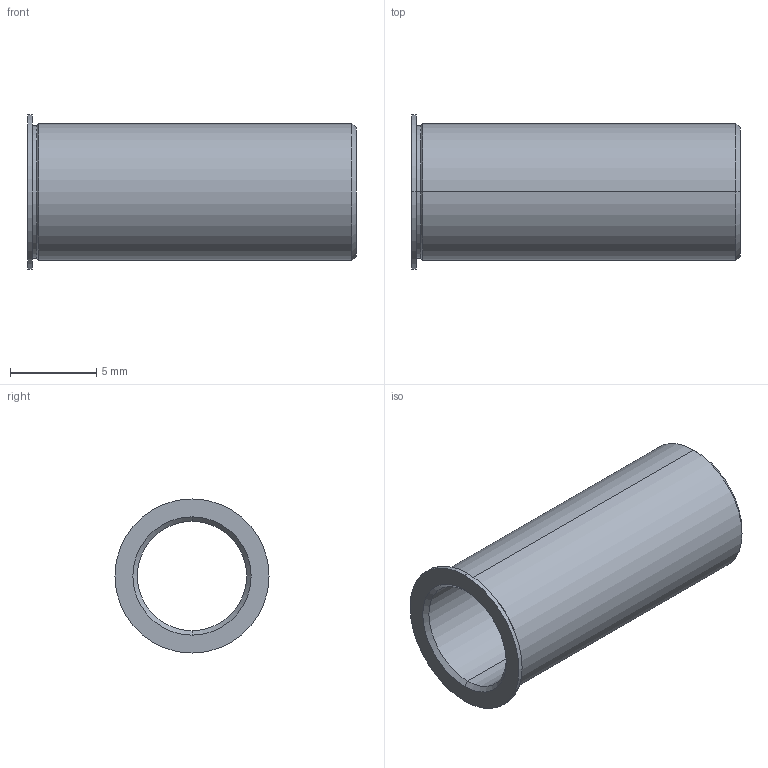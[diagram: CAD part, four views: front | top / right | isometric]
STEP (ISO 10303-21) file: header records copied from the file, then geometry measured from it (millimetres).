
FILE_DESCRIPTION (( 'STEP AP214' ), '1' );
FILE_NAME ('TB250-80-750.STEP', '2013-02-13T15:15:15', ( 'workpc' ), ( 'Microsoft' ), 'SwSTEP 2.0', 'SolidWorks 2013', '' );
FILE_SCHEMA (( 'AUTOMOTIVE_DESIGN' ));
Length unit declared in the file: inch
Products named in the file (1): TB250-80-750
Bounding box: 19.05 x 8.94 x 8.94 mm (x, y, z)
Volume: 339.6 mm3; surface area: 912.7 mm2
Topology: 1 solids, 1 shells, 19 faces, 38 edges, 22 vertices
Faces by surface type: cone 8, cylinder 8, plane 3
Entity records: 564 total; most frequent: DIRECTION 100, CARTESIAN_POINT 80, ORIENTED_EDGE 76, AXIS2_PLACEMENT_3D 42, EDGE_CURVE 38, VERTEX_POINT 22, EDGE_LOOP 22, CIRCLE 22
